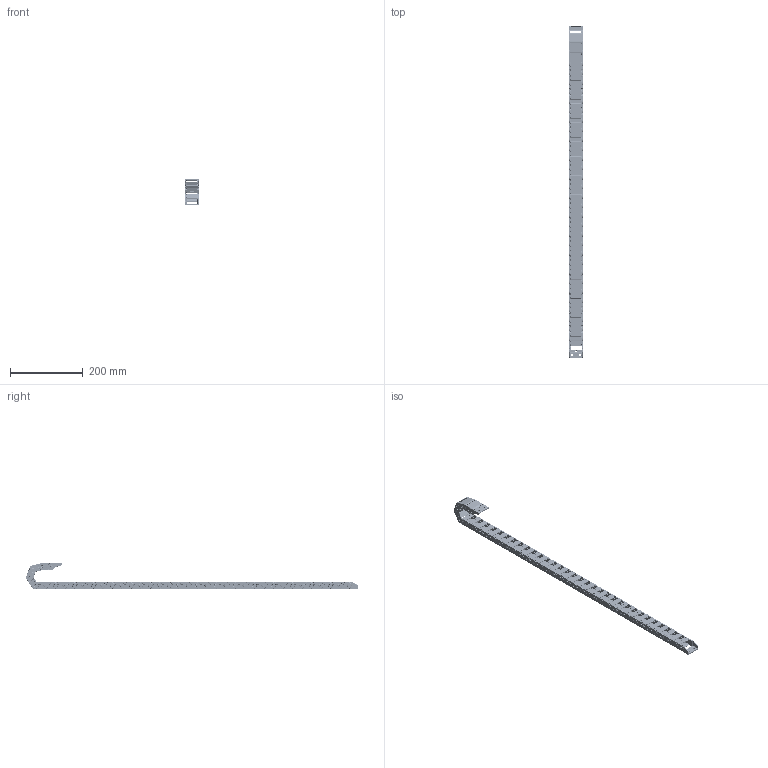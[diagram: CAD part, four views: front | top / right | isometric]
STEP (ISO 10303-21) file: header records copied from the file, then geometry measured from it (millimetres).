
FILE_DESCRIPTION(/* description */ (''),/* implementation_level */ '2;1');
FILE_NAME(/* name */ 'BFCK15x30R28.prt.stp',/* time_stamp */ '2022-11-17T13:17:34+08:00',/* author */ (''),/* organization */ (''),/* preprocessor_version */ 'ST-DEVELOPER v16',/* originating_system */ 'SIEMENS PLM Software NX 10.0',/* authorisation */ '');
FILE_SCHEMA (('CONFIG_CONTROL_DESIGN'));
Products named in the file (1): BFCK15x30R28
Bounding box: 39.68 x 910.44 x 71.38 mm (x, y, z)
Volume: 217633.4 mm3; surface area: 256887.7 mm2
Topology: 76 solids, 76 shells, 12094 faces, 30622 edges, 18134 vertices
Faces by surface type: cylinder 5202, plane 4146, torus 1009, sphere 903, bspline 705, cone 86, extrusion 43
Full cylindrical faces by diameter (mm): 6 x2, 6.05 x2, 6.058 x148
Entity records: 377398 total; most frequent: CARTESIAN_POINT 93789, DIRECTION 60463, ORIENTED_EDGE 58908, EDGE_CURVE 29454, AXIS2_PLACEMENT_3D 22304, VERTEX_POINT 17947, VECTOR 15855, LINE 15812
